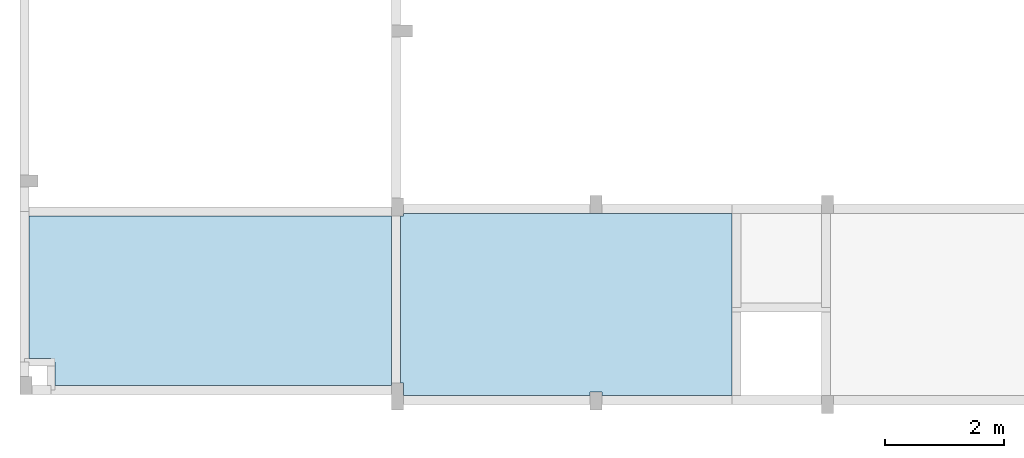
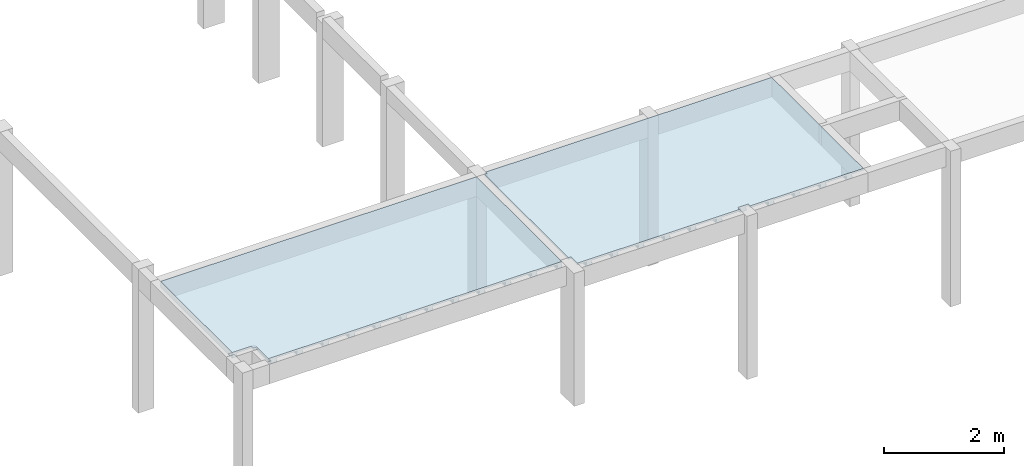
# One storey, part 4 of 11: 2 slabs.
"""IFC4 building model written with IfcOpenShell, lengths in centimetres."""

from ifc_helpers import new_model, si_unit, derived_unit, frame, origin_with_axes, place, context, project, spatial, polyline, outline, extrude, faceted_brep, material, element, save


model = new_model("IFC4")

# Units and contexts
model_context = context("Model", 3, precision=1e-05, world=origin_with_axes(), identifier="Body")
ifc_project = project(units=[si_unit("LENGTHUNIT", "METRE", prefix="CENTI"), si_unit("VOLUMEUNIT", "CUBIC_METRE"), si_unit("AREAUNIT", "SQUARE_METRE"), si_unit("POWERUNIT", "WATT"), si_unit("LUMINOUSFLUXUNIT", "LUMEN"), si_unit("ELECTRICCURRENTUNIT", "AMPERE"), si_unit("PRESSUREUNIT", "PASCAL", prefix="KILO"), si_unit("MASSUNIT", "GRAM", prefix="KILO"), si_unit("PLANEANGLEUNIT", "RADIAN"), derived_unit("VOLUMETRICFLOWRATEUNIT", [(si_unit("LENGTHUNIT", "METRE"), 3), (si_unit("TIMEUNIT", "SECOND"), -1)])], contexts=[model_context])

# Site, building, storey
site_placement = place(None, origin_with_axes())
site = spatial("IfcSite", under=ifc_project, at=site_placement)
building_placement = place(site_placement, frame((0.0, 0.0, -295.0)))
building = spatial("IfcBuilding", under=site, at=building_placement)
placement_1 = place(building_placement, origin_with_axes())
placement_2 = place(placement_1, frame((0.0, 0.0, 101.0), z_axis=(0.0, 0.0, 1.0), x_axis=(1.0, 0.0, 0.0)))
placement_3 = place(placement_2, frame((0.0, 0.0, 204.0), z_axis=(0.0, 0.0, 1.0), x_axis=(1.0, 0.0, 0.0)))
storey_placement = place(placement_3, frame((0.0, 0.0, 292.0), z_axis=(0.0, 0.0, 1.0), x_axis=(1.0, 0.0, 0.0)))
storey = spatial("IfcBuildingStorey", under=building, at=storey_placement, Name="PAVTO 01", CompositionType="ELEMENT", Elevation=302.0)

# Slabs
ifc_material = material(Name="Concreto")
slab_1_placement = place(storey_placement, frame((870.315, -6990.274996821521, 0.0), z_axis=(0.0, 0.0, 1.0), x_axis=(1.0, 0.0, 0.0)))
element("IfcSlab", 1, at=slab_1_placement, inside=storey, material=ifc_material, Name="L113", PredefinedType="FLOOR", context=model_context, shape_type="SolidModel", body=[
    extrude(outline(polyline([(303.585, 141.924), (-303.585, 141.925), (-303.585, -96.425), (-266.864, -96.424), (-266.864, -102.924), (-260.364, -102.924), (-260.364, -141.924), (303.585, -141.925), (303.585, 141.924), (303.585, 141.924)])), frame((0.0, 0.0, -4.0), z_axis=(0.0, 0.0, 1.0), x_axis=(1.0, 0.0, 0.0)), (0.0, 0.0, 1.0), 4.0),
    faceted_brep([(-5.0, -141.92450317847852, -12.0), (-5.0, 141.92449682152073, -12.0), (5.0, 141.92449682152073, -12.0), (5.0, -141.92450317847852, -12.0), (5.0, -141.92450317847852, -4.0), (5.0, 141.92449682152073, -4.0), (-5.0, 141.92449682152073, -4.0), (-5.0, -141.92450317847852, -4.0)], [[[0, 1, 2, 3]], [[4, 5, 6, 7]], [[4, 3, 5]], [[3, 2, 5]], [[5, 2, 6]], [[2, 1, 6]], [[6, 1, 7]], [[1, 0, 7]], [[7, 0, 4]], [[0, 3, 4]]]),
    faceted_brep([(-6.5, -141.92450317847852, -12.0), (-6.5, 141.92449682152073, -12.0), (-5.0, 141.92449682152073, -12.0), (-5.0, -141.92450317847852, -12.0), (-5.0, -141.92450317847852, -9.0), (-5.0, 141.92449682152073, -9.0), (-6.5, 141.92449682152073, -9.0), (-6.5, -141.92450317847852, -9.0)], [[[0, 1, 2, 3]], [[4, 5, 6, 7]], [[4, 3, 5]], [[3, 2, 5]], [[5, 2, 6]], [[2, 1, 6]], [[6, 1, 7]], [[1, 0, 7]], [[7, 0, 4]], [[0, 3, 4]]]),
    faceted_brep([(5.0, -141.92450317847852, -12.0), (5.0, 141.92449682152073, -12.0), (6.5, 141.92449682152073, -12.0), (6.5, -141.92450317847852, -12.0), (6.5, -141.92450317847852, -9.0), (6.5, 141.92449682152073, -9.0), (5.0, 141.92449682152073, -9.0), (5.0, -141.92450317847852, -9.0)], [[[0, 1, 2, 3]], [[4, 5, 6, 7]], [[4, 3, 5]], [[3, 2, 5]], [[5, 2, 6]], [[2, 1, 6]], [[6, 1, 7]], [[1, 0, 7]], [[7, 0, 4]], [[0, 3, 4]]]),
    faceted_brep([(-55.0, -141.92450317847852, -12.0), (-55.0, 141.92449682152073, -12.0), (-45.0, 141.92449682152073, -12.0), (-45.0, -141.92450317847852, -12.0), (-45.0, -141.92450317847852, -4.0), (-45.0, 141.92449682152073, -4.0), (-55.0, 141.92449682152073, -4.0), (-55.0, -141.92450317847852, -4.0)], [[[0, 1, 2, 3]], [[4, 5, 6, 7]], [[4, 3, 5]], [[3, 2, 5]], [[5, 2, 6]], [[2, 1, 6]], [[6, 1, 7]], [[1, 0, 7]], [[7, 0, 4]], [[0, 3, 4]]]),
    faceted_brep([(-56.5, -141.92450317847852, -12.0), (-56.5, 141.92449682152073, -12.0), (-55.0, 141.92449682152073, -12.0), (-55.0, -141.92450317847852, -12.0), (-55.0, -141.92450317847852, -9.0), (-55.0, 141.92449682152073, -9.0), (-56.5, 141.92449682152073, -9.0), (-56.5, -141.92450317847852, -9.0)], [[[0, 1, 2, 3]], [[4, 5, 6, 7]], [[4, 3, 5]], [[3, 2, 5]], [[5, 2, 6]], [[2, 1, 6]], [[6, 1, 7]], [[1, 0, 7]], [[7, 0, 4]], [[0, 3, 4]]]),
    faceted_brep([(-45.0, -141.92450317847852, -12.0), (-45.0, 141.92449682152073, -12.0), (-43.5, 141.92449682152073, -12.0), (-43.5, -141.92450317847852, -12.0), (-43.5, -141.92450317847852, -9.0), (-43.5, 141.92449682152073, -9.0), (-45.0, 141.92449682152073, -9.0), (-45.0, -141.92450317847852, -9.0)], [[[0, 1, 2, 3]], [[4, 5, 6, 7]], [[4, 3, 5]], [[3, 2, 5]], [[5, 2, 6]], [[2, 1, 6]], [[6, 1, 7]], [[1, 0, 7]], [[7, 0, 4]], [[0, 3, 4]]]),
    faceted_brep([(-105.0, -141.92450317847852, -12.0), (-105.0, 141.92449682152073, -12.0), (-95.0, 141.92449682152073, -12.0), (-95.0, -141.92450317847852, -12.0), (-95.0, -141.92450317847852, -4.0), (-95.0, 141.92449682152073, -4.0), (-105.0, 141.92449682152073, -4.0), (-105.0, -141.92450317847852, -4.0)], [[[0, 1, 2, 3]], [[4, 5, 6, 7]], [[4, 3, 5]], [[3, 2, 5]], [[5, 2, 6]], [[2, 1, 6]], [[6, 1, 7]], [[1, 0, 7]], [[7, 0, 4]], [[0, 3, 4]]]),
    faceted_brep([(-106.5, -141.92450317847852, -12.0), (-106.5, 141.92449682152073, -12.0), (-105.0, 141.92449682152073, -12.0), (-105.0, -141.92450317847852, -12.0), (-105.0, -141.92450317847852, -9.0), (-105.0, 141.92449682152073, -9.0), (-106.5, 141.92449682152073, -9.0), (-106.5, -141.92450317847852, -9.0)], [[[0, 1, 2, 3]], [[4, 5, 6, 7]], [[4, 3, 5]], [[3, 2, 5]], [[5, 2, 6]], [[2, 1, 6]], [[6, 1, 7]], [[1, 0, 7]], [[7, 0, 4]], [[0, 3, 4]]]),
    faceted_brep([(-95.0, -141.92450317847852, -12.0), (-95.0, 141.92449682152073, -12.0), (-93.5, 141.92449682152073, -12.0), (-93.5, -141.92450317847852, -12.0), (-93.5, -141.92450317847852, -9.0), (-93.5, 141.92449682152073, -9.0), (-95.0, 141.92449682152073, -9.0), (-95.0, -141.92450317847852, -9.0)], [[[0, 1, 2, 3]], [[4, 5, 6, 7]], [[4, 3, 5]], [[3, 2, 5]], [[5, 2, 6]], [[2, 1, 6]], [[6, 1, 7]], [[1, 0, 7]], [[7, 0, 4]], [[0, 3, 4]]]),
    faceted_brep([(-155.0, -141.92450317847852, -12.0), (-155.0, 141.92449682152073, -12.0), (-145.0, 141.92449682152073, -12.0), (-145.0, -141.92450317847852, -12.0), (-145.0, -141.92450317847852, -4.0), (-145.0, 141.92449682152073, -4.0), (-155.0, 141.92449682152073, -4.0), (-155.0, -141.92450317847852, -4.0)], [[[0, 1, 2, 3]], [[4, 5, 6, 7]], [[4, 3, 5]], [[3, 2, 5]], [[5, 2, 6]], [[2, 1, 6]], [[6, 1, 7]], [[1, 0, 7]], [[7, 0, 4]], [[0, 3, 4]]]),
    faceted_brep([(-156.5, -141.92450317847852, -12.0), (-156.5, 141.92449682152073, -12.0), (-155.0, 141.92449682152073, -12.0), (-155.0, -141.92450317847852, -12.0), (-155.0, -141.92450317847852, -9.0), (-155.0, 141.92449682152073, -9.0), (-156.5, 141.92449682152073, -9.0), (-156.5, -141.92450317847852, -9.0)], [[[0, 1, 2, 3]], [[4, 5, 6, 7]], [[4, 3, 5]], [[3, 2, 5]], [[5, 2, 6]], [[2, 1, 6]], [[6, 1, 7]], [[1, 0, 7]], [[7, 0, 4]], [[0, 3, 4]]]),
    faceted_brep([(-145.0, -141.92450317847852, -12.0), (-145.0, 141.92449682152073, -12.0), (-143.5, 141.92449682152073, -12.0), (-143.5, -141.92450317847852, -12.0), (-143.5, -141.92450317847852, -9.0), (-143.5, 141.92449682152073, -9.0), (-145.0, 141.92449682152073, -9.0), (-145.0, -141.92450317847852, -9.0)], [[[0, 1, 2, 3]], [[4, 5, 6, 7]], [[4, 3, 5]], [[3, 2, 5]], [[5, 2, 6]], [[2, 1, 6]], [[6, 1, 7]], [[1, 0, 7]], [[7, 0, 4]], [[0, 3, 4]]]),
    faceted_brep([(-205.0, -141.92450317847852, -12.0), (-205.0, 141.92449682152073, -12.0), (-195.0, 141.92449682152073, -12.0), (-195.0, -141.92450317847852, -12.0), (-195.0, -141.92450317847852, -4.0), (-195.0, 141.92449682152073, -4.0), (-205.0, 141.92449682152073, -4.0), (-205.0, -141.92450317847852, -4.0)], [[[0, 1, 2, 3]], [[4, 5, 6, 7]], [[4, 3, 5]], [[3, 2, 5]], [[5, 2, 6]], [[2, 1, 6]], [[6, 1, 7]], [[1, 0, 7]], [[7, 0, 4]], [[0, 3, 4]]]),
    faceted_brep([(-206.5, -141.92450317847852, -12.0), (-206.5, 141.92449682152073, -12.0), (-205.0, 141.92449682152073, -12.0), (-205.0, -141.92450317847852, -12.0), (-205.0, -141.92450317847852, -9.0), (-205.0, 141.92449682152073, -9.0), (-206.5, 141.92449682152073, -9.0), (-206.5, -141.92450317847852, -9.0)], [[[0, 1, 2, 3]], [[4, 5, 6, 7]], [[4, 3, 5]], [[3, 2, 5]], [[5, 2, 6]], [[2, 1, 6]], [[6, 1, 7]], [[1, 0, 7]], [[7, 0, 4]], [[0, 3, 4]]]),
    faceted_brep([(-195.0, -141.92450317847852, -12.0), (-195.0, 141.92449682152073, -12.0), (-193.5, 141.92449682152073, -12.0), (-193.5, -141.92450317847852, -12.0), (-193.5, -141.92450317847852, -9.0), (-193.5, 141.92449682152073, -9.0), (-195.0, 141.92449682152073, -9.0), (-195.0, -141.92450317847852, -9.0)], [[[0, 1, 2, 3]], [[4, 5, 6, 7]], [[4, 3, 5]], [[3, 2, 5]], [[5, 2, 6]], [[2, 1, 6]], [[6, 1, 7]], [[1, 0, 7]], [[7, 0, 4]], [[0, 3, 4]]]),
    faceted_brep([(-255.0, -141.92450317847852, -12.0), (-255.0, 141.92449682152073, -12.0), (-245.0, 141.92449682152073, -12.0), (-245.0, -141.92450317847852, -12.0), (-245.0, -141.92450317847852, -4.0), (-245.0, 141.92449682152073, -4.0), (-255.0, 141.92449682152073, -4.0), (-255.0, -141.92450317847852, -4.0)], [[[0, 1, 2, 3]], [[4, 5, 6, 7]], [[4, 3, 5]], [[3, 2, 5]], [[5, 2, 6]], [[2, 1, 6]], [[6, 1, 7]], [[1, 0, 7]], [[7, 0, 4]], [[0, 3, 4]]]),
    faceted_brep([(-256.5, -141.92450317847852, -12.0), (-256.5, 141.92449682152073, -12.0), (-255.0, 141.92449682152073, -12.0), (-255.0, -141.92450317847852, -12.0), (-255.0, -141.92450317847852, -9.0), (-255.0, 141.92449682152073, -9.0), (-256.5, 141.92449682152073, -9.0), (-256.5, -141.92450317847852, -9.0)], [[[0, 1, 2, 3]], [[4, 5, 6, 7]], [[4, 3, 5]], [[3, 2, 5]], [[5, 2, 6]], [[2, 1, 6]], [[6, 1, 7]], [[1, 0, 7]], [[7, 0, 4]], [[0, 3, 4]]]),
    faceted_brep([(-245.0, -141.92450317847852, -12.0), (-245.0, 141.92449682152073, -12.0), (-243.5, 141.92449682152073, -12.0), (-243.5, -141.92450317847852, -12.0), (-243.5, -141.92450317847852, -9.0), (-243.5, 141.92449682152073, -9.0), (-245.0, 141.92449682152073, -9.0), (-245.0, -141.92450317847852, -9.0)], [[[0, 1, 2, 3]], [[4, 5, 6, 7]], [[4, 3, 5]], [[3, 2, 5]], [[5, 2, 6]], [[2, 1, 6]], [[6, 1, 7]], [[1, 0, 7]], [[7, 0, 4]], [[0, 3, 4]]]),
    faceted_brep([(-303.585, -96.4249055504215, -12.0), (-303.585, 141.92449682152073, -12.0), (-295.0, 141.92449682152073, -12.0), (-295.0, -96.42450317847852, -12.0), (-295.0, -96.42450317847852, -4.0), (-295.0, 141.92449682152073, -4.0), (-303.585, 141.92449682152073, -4.0), (-303.585, -96.4249055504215, -4.0)], [[[0, 1, 2, 3]], [[4, 5, 6, 7]], [[4, 3, 5]], [[3, 2, 5]], [[5, 2, 6]], [[2, 1, 6]], [[6, 1, 7]], [[1, 0, 7]], [[7, 0, 4]], [[0, 3, 4]]]),
    faceted_brep([(-295.0, -96.42450317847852, -12.0), (-295.0, 141.92449682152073, -12.0), (-293.5, 141.92449682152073, -12.0), (-293.5, -96.42450317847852, -12.0), (-293.5, -96.42450317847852, -9.0), (-293.5, 141.92449682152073, -9.0), (-295.0, 141.92449682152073, -9.0), (-295.0, -96.42450317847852, -9.0)], [[[0, 1, 2, 3]], [[4, 5, 6, 7]], [[4, 3, 5]], [[3, 2, 5]], [[5, 2, 6]], [[2, 1, 6]], [[6, 1, 7]], [[1, 0, 7]], [[7, 0, 4]], [[0, 3, 4]]]),
    faceted_brep([(45.0, -141.92450317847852, -12.0), (45.0, 141.92449682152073, -12.0), (55.0, 141.92449682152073, -12.0), (55.0, -141.92450317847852, -12.0), (55.0, -141.92450317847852, -4.0), (55.0, 141.92449682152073, -4.0), (45.0, 141.92449682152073, -4.0), (45.0, -141.92450317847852, -4.0)], [[[0, 1, 2, 3]], [[4, 5, 6, 7]], [[4, 3, 5]], [[3, 2, 5]], [[5, 2, 6]], [[2, 1, 6]], [[6, 1, 7]], [[1, 0, 7]], [[7, 0, 4]], [[0, 3, 4]]]),
    faceted_brep([(43.5, -141.92450317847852, -12.0), (43.5, 141.92449682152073, -12.0), (45.0, 141.92449682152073, -12.0), (45.0, -141.92450317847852, -12.0), (45.0, -141.92450317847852, -9.0), (45.0, 141.92449682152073, -9.0), (43.5, 141.92449682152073, -9.0), (43.5, -141.92450317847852, -9.0)], [[[0, 1, 2, 3]], [[4, 5, 6, 7]], [[4, 3, 5]], [[3, 2, 5]], [[5, 2, 6]], [[2, 1, 6]], [[6, 1, 7]], [[1, 0, 7]], [[7, 0, 4]], [[0, 3, 4]]]),
    faceted_brep([(55.0, -141.92450317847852, -12.0), (55.0, 141.92449682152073, -12.0), (56.5, 141.92449682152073, -12.0), (56.5, -141.92450317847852, -12.0), (56.5, -141.92450317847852, -9.0), (56.5, 141.92449682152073, -9.0), (55.0, 141.92449682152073, -9.0), (55.0, -141.92450317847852, -9.0)], [[[0, 1, 2, 3]], [[4, 5, 6, 7]], [[4, 3, 5]], [[3, 2, 5]], [[5, 2, 6]], [[2, 1, 6]], [[6, 1, 7]], [[1, 0, 7]], [[7, 0, 4]], [[0, 3, 4]]]),
    faceted_brep([(95.0, -141.92450317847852, -12.0), (95.0, 141.92449682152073, -12.0), (105.0, 141.92449682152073, -12.0), (105.0, -141.92450317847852, -12.0), (105.0, -141.92450317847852, -4.0), (105.0, 141.92449682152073, -4.0), (95.0, 141.92449682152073, -4.0), (95.0, -141.92450317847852, -4.0)], [[[0, 1, 2, 3]], [[4, 5, 6, 7]], [[4, 3, 5]], [[3, 2, 5]], [[5, 2, 6]], [[2, 1, 6]], [[6, 1, 7]], [[1, 0, 7]], [[7, 0, 4]], [[0, 3, 4]]]),
    faceted_brep([(93.5, -141.92450317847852, -12.0), (93.5, 141.92449682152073, -12.0), (95.0, 141.92449682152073, -12.0), (95.0, -141.92450317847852, -12.0), (95.0, -141.92450317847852, -9.0), (95.0, 141.92449682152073, -9.0), (93.5, 141.92449682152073, -9.0), (93.5, -141.92450317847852, -9.0)], [[[0, 1, 2, 3]], [[4, 5, 6, 7]], [[4, 3, 5]], [[3, 2, 5]], [[5, 2, 6]], [[2, 1, 6]], [[6, 1, 7]], [[1, 0, 7]], [[7, 0, 4]], [[0, 3, 4]]]),
    faceted_brep([(105.0, -141.92450317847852, -12.0), (105.0, 141.92449682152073, -12.0), (106.5, 141.92449682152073, -12.0), (106.5, -141.92450317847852, -12.0), (106.5, -141.92450317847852, -9.0), (106.5, 141.92449682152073, -9.0), (105.0, 141.92449682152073, -9.0), (105.0, -141.92450317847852, -9.0)], [[[0, 1, 2, 3]], [[4, 5, 6, 7]], [[4, 3, 5]], [[3, 2, 5]], [[5, 2, 6]], [[2, 1, 6]], [[6, 1, 7]], [[1, 0, 7]], [[7, 0, 4]], [[0, 3, 4]]]),
    faceted_brep([(145.0, -141.92450317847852, -12.0), (145.0, 141.92449682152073, -12.0), (155.0, 141.92449682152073, -12.0), (155.0, -141.92450317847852, -12.0), (155.0, -141.92450317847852, -4.0), (155.0, 141.92449682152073, -4.0), (145.0, 141.92449682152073, -4.0), (145.0, -141.92450317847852, -4.0)], [[[0, 1, 2, 3]], [[4, 5, 6, 7]], [[4, 3, 5]], [[3, 2, 5]], [[5, 2, 6]], [[2, 1, 6]], [[6, 1, 7]], [[1, 0, 7]], [[7, 0, 4]], [[0, 3, 4]]]),
    faceted_brep([(143.5, -141.92450317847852, -12.0), (143.5, 141.92449682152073, -12.0), (145.0, 141.92449682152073, -12.0), (145.0, -141.92450317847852, -12.0), (145.0, -141.92450317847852, -9.0), (145.0, 141.92449682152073, -9.0), (143.5, 141.92449682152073, -9.0), (143.5, -141.92450317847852, -9.0)], [[[0, 1, 2, 3]], [[4, 5, 6, 7]], [[4, 3, 5]], [[3, 2, 5]], [[5, 2, 6]], [[2, 1, 6]], [[6, 1, 7]], [[1, 0, 7]], [[7, 0, 4]], [[0, 3, 4]]]),
    faceted_brep([(155.0, -141.92450317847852, -12.0), (155.0, 141.92449682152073, -12.0), (156.5, 141.92449682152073, -12.0), (156.5, -141.92450317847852, -12.0), (156.5, -141.92450317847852, -9.0), (156.5, 141.92449682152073, -9.0), (155.0, 141.92449682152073, -9.0), (155.0, -141.92450317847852, -9.0)], [[[0, 1, 2, 3]], [[4, 5, 6, 7]], [[4, 3, 5]], [[3, 2, 5]], [[5, 2, 6]], [[2, 1, 6]], [[6, 1, 7]], [[1, 0, 7]], [[7, 0, 4]], [[0, 3, 4]]]),
    faceted_brep([(195.0, -141.92450317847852, -12.0), (195.0, 141.92449682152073, -12.0), (205.0, 141.92449682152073, -12.0), (205.0, -141.92450317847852, -12.0), (205.0, -141.92450317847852, -4.0), (205.0, 141.92449682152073, -4.0), (195.0, 141.92449682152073, -4.0), (195.0, -141.92450317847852, -4.0)], [[[0, 1, 2, 3]], [[4, 5, 6, 7]], [[4, 3, 5]], [[3, 2, 5]], [[5, 2, 6]], [[2, 1, 6]], [[6, 1, 7]], [[1, 0, 7]], [[7, 0, 4]], [[0, 3, 4]]]),
    faceted_brep([(193.5, -141.92450317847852, -12.0), (193.5, 141.92449682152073, -12.0), (195.0, 141.92449682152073, -12.0), (195.0, -141.92450317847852, -12.0), (195.0, -141.92450317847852, -9.0), (195.0, 141.92449682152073, -9.0), (193.5, 141.92449682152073, -9.0), (193.5, -141.92450317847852, -9.0)], [[[0, 1, 2, 3]], [[4, 5, 6, 7]], [[4, 3, 5]], [[3, 2, 5]], [[5, 2, 6]], [[2, 1, 6]], [[6, 1, 7]], [[1, 0, 7]], [[7, 0, 4]], [[0, 3, 4]]]),
    faceted_brep([(205.0, -141.92450317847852, -12.0), (205.0, 141.92449682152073, -12.0), (206.5, 141.92449682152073, -12.0), (206.5, -141.92450317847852, -12.0), (206.5, -141.92450317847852, -9.0), (206.5, 141.92449682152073, -9.0), (205.0, 141.92449682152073, -9.0), (205.0, -141.92450317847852, -9.0)], [[[0, 1, 2, 3]], [[4, 5, 6, 7]], [[4, 3, 5]], [[3, 2, 5]], [[5, 2, 6]], [[2, 1, 6]], [[6, 1, 7]], [[1, 0, 7]], [[7, 0, 4]], [[0, 3, 4]]]),
    faceted_brep([(245.0, -141.92450317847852, -12.0), (245.0, 141.92449682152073, -12.0), (255.0, 141.92449682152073, -12.0), (255.0, -141.92450317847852, -12.0), (255.0, -141.92450317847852, -4.0), (255.0, 141.92449682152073, -4.0), (245.0, 141.92449682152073, -4.0), (245.0, -141.92450317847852, -4.0)], [[[0, 1, 2, 3]], [[4, 5, 6, 7]], [[4, 3, 5]], [[3, 2, 5]], [[5, 2, 6]], [[2, 1, 6]], [[6, 1, 7]], [[1, 0, 7]], [[7, 0, 4]], [[0, 3, 4]]]),
    faceted_brep([(243.5, -141.92450317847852, -12.0), (243.5, 141.92449682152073, -12.0), (245.0, 141.92449682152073, -12.0), (245.0, -141.92450317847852, -12.0), (245.0, -141.92450317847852, -9.0), (245.0, 141.92449682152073, -9.0), (243.5, 141.92449682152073, -9.0), (243.5, -141.92450317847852, -9.0)], [[[0, 1, 2, 3]], [[4, 5, 6, 7]], [[4, 3, 5]], [[3, 2, 5]], [[5, 2, 6]], [[2, 1, 6]], [[6, 1, 7]], [[1, 0, 7]], [[7, 0, 4]], [[0, 3, 4]]]),
    faceted_brep([(255.0, -141.92450317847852, -12.0), (255.0, 141.92449682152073, -12.0), (256.5, 141.92449682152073, -12.0), (256.5, -141.92450317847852, -12.0), (256.5, -141.92450317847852, -9.0), (256.5, 141.92449682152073, -9.0), (255.0, 141.92449682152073, -9.0), (255.0, -141.92450317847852, -9.0)], [[[0, 1, 2, 3]], [[4, 5, 6, 7]], [[4, 3, 5]], [[3, 2, 5]], [[5, 2, 6]], [[2, 1, 6]], [[6, 1, 7]], [[1, 0, 7]], [[7, 0, 4]], [[0, 3, 4]]]),
    faceted_brep([(295.0, -141.92450317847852, -12.0), (295.0, 141.92449682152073, -12.0), (303.585, 141.92449682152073, -12.0), (303.585, -141.92499682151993, -12.0), (303.585, -141.92499682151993, -4.0), (303.585, 141.92449682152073, -4.0), (295.0, 141.92449682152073, -4.0), (295.0, -141.92450317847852, -4.0)], [[[0, 1, 2, 3]], [[4, 5, 6, 7]], [[4, 3, 5]], [[3, 2, 5]], [[5, 2, 6]], [[2, 1, 6]], [[6, 1, 7]], [[1, 0, 7]], [[7, 0, 4]], [[0, 3, 4]]]),
    faceted_brep([(293.5, -141.92450317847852, -12.0), (293.5, 141.92449682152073, -12.0), (295.0, 141.92449682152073, -12.0), (295.0, -141.92450317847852, -12.0), (295.0, -141.92450317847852, -9.0), (295.0, 141.92449682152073, -9.0), (293.5, 141.92449682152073, -9.0), (293.5, -141.92450317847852, -9.0)], [[[0, 1, 2, 3]], [[4, 5, 6, 7]], [[4, 3, 5]], [[3, 2, 5]], [[5, 2, 6]], [[2, 1, 6]], [[6, 1, 7]], [[1, 0, 7]], [[7, 0, 4]], [[0, 3, 4]]]),
])
slab_2_placement = place(storey_placement, frame((1466.25, -6996.755, 0.0), z_axis=(0.0, 0.0, 1.0), x_axis=(1.0, 0.0, 0.0)))
element("IfcSlab", 2, at=slab_2_placement, inside=storey, material=ifc_material, Name="L114", PredefinedType="FLOOR", context=model_context, shape_type="SolidModel", body=[
    extrude(outline(polyline([(277.349, -152.555), (277.35, 152.554), (-272.35, 152.555), (-272.349, 148.404), (-277.349, 148.404), (-277.35, -131.174), (-272.349, -131.175), (-272.349, -152.554), (39.71, -152.554), (39.71, -146.175), (59.71, -146.175), (59.71, -152.555), (277.349, -152.555), (277.349, -152.555)])), frame((0.0, 0.0, -4.0), z_axis=(0.0, 0.0, 1.0), x_axis=(1.0, 0.0, 0.0)), (0.0, 0.0, 1.0), 4.0),
    faceted_brep([(-5.0, -152.554, -12.0), (-5.0, 152.5545, -12.0), (5.0, 152.5545, -12.0), (5.0, -152.554, -12.0), (5.0, -152.554, -4.0), (5.0, 152.5545, -4.0), (-5.0, 152.5545, -4.0), (-5.0, -152.554, -4.0)], [[[0, 1, 2, 3]], [[4, 5, 6, 7]], [[4, 3, 5]], [[3, 2, 5]], [[5, 2, 6]], [[2, 1, 6]], [[6, 1, 7]], [[1, 0, 7]], [[7, 0, 4]], [[0, 3, 4]]]),
    faceted_brep([(-6.5, -152.554, -12.0), (-6.5, 152.5545, -12.0), (-5.0, 152.5545, -12.0), (-5.0, -152.554, -12.0), (-5.0, -152.554, -9.0), (-5.0, 152.5545, -9.0), (-6.5, 152.5545, -9.0), (-6.5, -152.554, -9.0)], [[[0, 1, 2, 3]], [[4, 5, 6, 7]], [[4, 3, 5]], [[3, 2, 5]], [[5, 2, 6]], [[2, 1, 6]], [[6, 1, 7]], [[1, 0, 7]], [[7, 0, 4]], [[0, 3, 4]]]),
    faceted_brep([(5.0, -152.554, -12.0), (5.0, 152.5545, -12.0), (6.5, 152.5545, -12.0), (6.5, -152.554, -12.0), (6.5, -152.554, -9.0), (6.5, 152.5545, -9.0), (5.0, 152.5545, -9.0), (5.0, -152.554, -9.0)], [[[0, 1, 2, 3]], [[4, 5, 6, 7]], [[4, 3, 5]], [[3, 2, 5]], [[5, 2, 6]], [[2, 1, 6]], [[6, 1, 7]], [[1, 0, 7]], [[7, 0, 4]], [[0, 3, 4]]]),
    faceted_brep([(-55.0, -152.554, -12.0), (-55.0, 152.5545, -12.0), (-45.0, 152.5545, -12.0), (-45.0, -152.554, -12.0), (-45.0, -152.554, -4.0), (-45.0, 152.5545, -4.0), (-55.0, 152.5545, -4.0), (-55.0, -152.554, -4.0)], [[[0, 1, 2, 3]], [[4, 5, 6, 7]], [[4, 3, 5]], [[3, 2, 5]], [[5, 2, 6]], [[2, 1, 6]], [[6, 1, 7]], [[1, 0, 7]], [[7, 0, 4]], [[0, 3, 4]]]),
    faceted_brep([(-56.5, -152.554, -12.0), (-56.5, 152.5545, -12.0), (-55.0, 152.5545, -12.0), (-55.0, -152.554, -12.0), (-55.0, -152.554, -9.0), (-55.0, 152.5545, -9.0), (-56.5, 152.5545, -9.0), (-56.5, -152.554, -9.0)], [[[0, 1, 2, 3]], [[4, 5, 6, 7]], [[4, 3, 5]], [[3, 2, 5]], [[5, 2, 6]], [[2, 1, 6]], [[6, 1, 7]], [[1, 0, 7]], [[7, 0, 4]], [[0, 3, 4]]]),
    faceted_brep([(-45.0, -152.554, -12.0), (-45.0, 152.5545, -12.0), (-43.5, 152.5545, -12.0), (-43.5, -152.554, -12.0), (-43.5, -152.554, -9.0), (-43.5, 152.5545, -9.0), (-45.0, 152.5545, -9.0), (-45.0, -152.554, -9.0)], [[[0, 1, 2, 3]], [[4, 5, 6, 7]], [[4, 3, 5]], [[3, 2, 5]], [[5, 2, 6]], [[2, 1, 6]], [[6, 1, 7]], [[1, 0, 7]], [[7, 0, 4]], [[0, 3, 4]]]),
    faceted_brep([(-105.0, -152.554, -12.0), (-105.0, 152.5545, -12.0), (-95.0, 152.5545, -12.0), (-95.0, -152.554, -12.0), (-95.0, -152.554, -4.0), (-95.0, 152.5545, -4.0), (-105.0, 152.5545, -4.0), (-105.0, -152.554, -4.0)], [[[0, 1, 2, 3]], [[4, 5, 6, 7]], [[4, 3, 5]], [[3, 2, 5]], [[5, 2, 6]], [[2, 1, 6]], [[6, 1, 7]], [[1, 0, 7]], [[7, 0, 4]], [[0, 3, 4]]]),
    faceted_brep([(-106.5, -152.554, -12.0), (-106.5, 152.5545, -12.0), (-105.0, 152.5545, -12.0), (-105.0, -152.554, -12.0), (-105.0, -152.554, -9.0), (-105.0, 152.5545, -9.0), (-106.5, 152.5545, -9.0), (-106.5, -152.554, -9.0)], [[[0, 1, 2, 3]], [[4, 5, 6, 7]], [[4, 3, 5]], [[3, 2, 5]], [[5, 2, 6]], [[2, 1, 6]], [[6, 1, 7]], [[1, 0, 7]], [[7, 0, 4]], [[0, 3, 4]]]),
    faceted_brep([(-95.0, -152.554, -12.0), (-95.0, 152.5545, -12.0), (-93.5, 152.5545, -12.0), (-93.5, -152.554, -12.0), (-93.5, -152.554, -9.0), (-93.5, 152.5545, -9.0), (-95.0, 152.5545, -9.0), (-95.0, -152.554, -9.0)], [[[0, 1, 2, 3]], [[4, 5, 6, 7]], [[4, 3, 5]], [[3, 2, 5]], [[5, 2, 6]], [[2, 1, 6]], [[6, 1, 7]], [[1, 0, 7]], [[7, 0, 4]], [[0, 3, 4]]]),
    faceted_brep([(-155.0, -152.554, -12.0), (-155.0, 152.5545, -12.0), (-145.0, 152.5545, -12.0), (-145.0, -152.554, -12.0), (-145.0, -152.554, -4.0), (-145.0, 152.5545, -4.0), (-155.0, 152.5545, -4.0), (-155.0, -152.554, -4.0)], [[[0, 1, 2, 3]], [[4, 5, 6, 7]], [[4, 3, 5]], [[3, 2, 5]], [[5, 2, 6]], [[2, 1, 6]], [[6, 1, 7]], [[1, 0, 7]], [[7, 0, 4]], [[0, 3, 4]]]),
    faceted_brep([(-156.5, -152.554, -12.0), (-156.5, 152.5545, -12.0), (-155.0, 152.5545, -12.0), (-155.0, -152.554, -12.0), (-155.0, -152.554, -9.0), (-155.0, 152.5545, -9.0), (-156.5, 152.5545, -9.0), (-156.5, -152.554, -9.0)], [[[0, 1, 2, 3]], [[4, 5, 6, 7]], [[4, 3, 5]], [[3, 2, 5]], [[5, 2, 6]], [[2, 1, 6]], [[6, 1, 7]], [[1, 0, 7]], [[7, 0, 4]], [[0, 3, 4]]]),
    faceted_brep([(-145.0, -152.554, -12.0), (-145.0, 152.5545, -12.0), (-143.5, 152.5545, -12.0), (-143.5, -152.554, -12.0), (-143.5, -152.554, -9.0), (-143.5, 152.5545, -9.0), (-145.0, 152.5545, -9.0), (-145.0, -152.554, -9.0)], [[[0, 1, 2, 3]], [[4, 5, 6, 7]], [[4, 3, 5]], [[3, 2, 5]], [[5, 2, 6]], [[2, 1, 6]], [[6, 1, 7]], [[1, 0, 7]], [[7, 0, 4]], [[0, 3, 4]]]),
    faceted_brep([(-205.0, -152.554, -12.0), (-205.0, 152.5545, -12.0), (-195.0, 152.5545, -12.0), (-195.0, -152.554, -12.0), (-195.0, -152.554, -4.0), (-195.0, 152.5545, -4.0), (-205.0, 152.5545, -4.0), (-205.0, -152.554, -4.0)], [[[0, 1, 2, 3]], [[4, 5, 6, 7]], [[4, 3, 5]], [[3, 2, 5]], [[5, 2, 6]], [[2, 1, 6]], [[6, 1, 7]], [[1, 0, 7]], [[7, 0, 4]], [[0, 3, 4]]]),
    faceted_brep([(-206.5, -152.554, -12.0), (-206.5, 152.5545, -12.0), (-205.0, 152.5545, -12.0), (-205.0, -152.554, -12.0), (-205.0, -152.554, -9.0), (-205.0, 152.5545, -9.0), (-206.5, 152.5545, -9.0), (-206.5, -152.554, -9.0)], [[[0, 1, 2, 3]], [[4, 5, 6, 7]], [[4, 3, 5]], [[3, 2, 5]], [[5, 2, 6]], [[2, 1, 6]], [[6, 1, 7]], [[1, 0, 7]], [[7, 0, 4]], [[0, 3, 4]]]),
    faceted_brep([(-195.0, -152.554, -12.0), (-195.0, 152.5545, -12.0), (-193.5, 152.5545, -12.0), (-193.5, -152.554, -12.0), (-193.5, -152.554, -9.0), (-193.5, 152.5545, -9.0), (-195.0, 152.5545, -9.0), (-195.0, -152.554, -9.0)], [[[0, 1, 2, 3]], [[4, 5, 6, 7]], [[4, 3, 5]], [[3, 2, 5]], [[5, 2, 6]], [[2, 1, 6]], [[6, 1, 7]], [[1, 0, 7]], [[7, 0, 4]], [[0, 3, 4]]]),
    faceted_brep([(-255.0, -152.554, -12.0), (-255.0, 152.5545, -12.0), (-245.0, 152.5545, -12.0), (-245.0, -152.554, -12.0), (-245.0, -152.554, -4.0), (-245.0, 152.5545, -4.0), (-255.0, 152.5545, -4.0), (-255.0, -152.554, -4.0)], [[[0, 1, 2, 3]], [[4, 5, 6, 7]], [[4, 3, 5]], [[3, 2, 5]], [[5, 2, 6]], [[2, 1, 6]], [[6, 1, 7]], [[1, 0, 7]], [[7, 0, 4]], [[0, 3, 4]]]),
    faceted_brep([(-256.5, -152.554, -12.0), (-256.5, 152.5545, -12.0), (-255.0, 152.5545, -12.0), (-255.0, -152.554, -12.0), (-255.0, -152.554, -9.0), (-255.0, 152.5545, -9.0), (-256.5, 152.5545, -9.0), (-256.5, -152.554, -9.0)], [[[0, 1, 2, 3]], [[4, 5, 6, 7]], [[4, 3, 5]], [[3, 2, 5]], [[5, 2, 6]], [[2, 1, 6]], [[6, 1, 7]], [[1, 0, 7]], [[7, 0, 4]], [[0, 3, 4]]]),
    faceted_brep([(-245.0, -152.554, -12.0), (-245.0, 152.5545, -12.0), (-243.5, 152.5545, -12.0), (-243.5, -152.554, -12.0), (-243.5, -152.554, -9.0), (-243.5, 152.5545, -9.0), (-245.0, 152.5545, -9.0), (-245.0, -152.554, -9.0)], [[[0, 1, 2, 3]], [[4, 5, 6, 7]], [[4, 3, 5]], [[3, 2, 5]], [[5, 2, 6]], [[2, 1, 6]], [[6, 1, 7]], [[1, 0, 7]], [[7, 0, 4]], [[0, 3, 4]]]),
    faceted_brep([(45.0, -146.175, -12.0), (45.0, 152.5545, -12.0), (55.0, 152.5545, -12.0), (55.0, -146.175, -12.0), (55.0, -146.175, -4.0), (55.0, 152.5545, -4.0), (45.0, 152.5545, -4.0), (45.0, -146.175, -4.0)], [[[0, 1, 2, 3]], [[4, 5, 6, 7]], [[4, 3, 5]], [[3, 2, 5]], [[5, 2, 6]], [[2, 1, 6]], [[6, 1, 7]], [[1, 0, 7]], [[7, 0, 4]], [[0, 3, 4]]]),
    faceted_brep([(43.5, -146.175, -12.0), (43.5, 152.5545, -12.0), (45.0, 152.5545, -12.0), (45.0, -146.175, -12.0), (45.0, -146.175, -9.0), (45.0, 152.5545, -9.0), (43.5, 152.5545, -9.0), (43.5, -146.175, -9.0)], [[[0, 1, 2, 3]], [[4, 5, 6, 7]], [[4, 3, 5]], [[3, 2, 5]], [[5, 2, 6]], [[2, 1, 6]], [[6, 1, 7]], [[1, 0, 7]], [[7, 0, 4]], [[0, 3, 4]]]),
    faceted_brep([(55.0, -146.175, -12.0), (55.0, 152.5545, -12.0), (56.5, 152.5545, -12.0), (56.5, -146.175, -12.0), (56.5, -146.175, -9.0), (56.5, 152.5545, -9.0), (55.0, 152.5545, -9.0), (55.0, -146.175, -9.0)], [[[0, 1, 2, 3]], [[4, 5, 6, 7]], [[4, 3, 5]], [[3, 2, 5]], [[5, 2, 6]], [[2, 1, 6]], [[6, 1, 7]], [[1, 0, 7]], [[7, 0, 4]], [[0, 3, 4]]]),
    faceted_brep([(95.0, -152.555, -12.0), (95.0, 152.5545, -12.0), (105.0, 152.5545, -12.0), (105.0, -152.555, -12.0), (105.0, -152.555, -4.0), (105.0, 152.5545, -4.0), (95.0, 152.5545, -4.0), (95.0, -152.555, -4.0)], [[[0, 1, 2, 3]], [[4, 5, 6, 7]], [[4, 3, 5]], [[3, 2, 5]], [[5, 2, 6]], [[2, 1, 6]], [[6, 1, 7]], [[1, 0, 7]], [[7, 0, 4]], [[0, 3, 4]]]),
    faceted_brep([(93.5, -152.555, -12.0), (93.5, 152.5545, -12.0), (95.0, 152.5545, -12.0), (95.0, -152.555, -12.0), (95.0, -152.555, -9.0), (95.0, 152.5545, -9.0), (93.5, 152.5545, -9.0), (93.5, -152.555, -9.0)], [[[0, 1, 2, 3]], [[4, 5, 6, 7]], [[4, 3, 5]], [[3, 2, 5]], [[5, 2, 6]], [[2, 1, 6]], [[6, 1, 7]], [[1, 0, 7]], [[7, 0, 4]], [[0, 3, 4]]]),
    faceted_brep([(105.0, -152.555, -12.0), (105.0, 152.5545, -12.0), (106.5, 152.5545, -12.0), (106.5, -152.555, -12.0), (106.5, -152.555, -9.0), (106.5, 152.5545, -9.0), (105.0, 152.5545, -9.0), (105.0, -152.555, -9.0)], [[[0, 1, 2, 3]], [[4, 5, 6, 7]], [[4, 3, 5]], [[3, 2, 5]], [[5, 2, 6]], [[2, 1, 6]], [[6, 1, 7]], [[1, 0, 7]], [[7, 0, 4]], [[0, 3, 4]]]),
    faceted_brep([(145.0, -152.555, -12.0), (145.0, 152.5545, -12.0), (155.0, 152.5545, -12.0), (155.0, -152.555, -12.0), (155.0, -152.555, -4.0), (155.0, 152.5545, -4.0), (145.0, 152.5545, -4.0), (145.0, -152.555, -4.0)], [[[0, 1, 2, 3]], [[4, 5, 6, 7]], [[4, 3, 5]], [[3, 2, 5]], [[5, 2, 6]], [[2, 1, 6]], [[6, 1, 7]], [[1, 0, 7]], [[7, 0, 4]], [[0, 3, 4]]]),
    faceted_brep([(143.5, -152.555, -12.0), (143.5, 152.5545, -12.0), (145.0, 152.5545, -12.0), (145.0, -152.555, -12.0), (145.0, -152.555, -9.0), (145.0, 152.5545, -9.0), (143.5, 152.5545, -9.0), (143.5, -152.555, -9.0)], [[[0, 1, 2, 3]], [[4, 5, 6, 7]], [[4, 3, 5]], [[3, 2, 5]], [[5, 2, 6]], [[2, 1, 6]], [[6, 1, 7]], [[1, 0, 7]], [[7, 0, 4]], [[0, 3, 4]]]),
    faceted_brep([(155.0, -152.555, -12.0), (155.0, 152.5545, -12.0), (156.5, 152.5545, -12.0), (156.5, -152.555, -12.0), (156.5, -152.555, -9.0), (156.5, 152.5545, -9.0), (155.0, 152.5545, -9.0), (155.0, -152.555, -9.0)], [[[0, 1, 2, 3]], [[4, 5, 6, 7]], [[4, 3, 5]], [[3, 2, 5]], [[5, 2, 6]], [[2, 1, 6]], [[6, 1, 7]], [[1, 0, 7]], [[7, 0, 4]], [[0, 3, 4]]]),
    faceted_brep([(195.0, -152.555, -12.0), (195.0, 152.5545, -12.0), (205.0, 152.5545, -12.0), (205.0, -152.555, -12.0), (205.0, -152.555, -4.0), (205.0, 152.5545, -4.0), (195.0, 152.5545, -4.0), (195.0, -152.555, -4.0)], [[[0, 1, 2, 3]], [[4, 5, 6, 7]], [[4, 3, 5]], [[3, 2, 5]], [[5, 2, 6]], [[2, 1, 6]], [[6, 1, 7]], [[1, 0, 7]], [[7, 0, 4]], [[0, 3, 4]]]),
    faceted_brep([(193.5, -152.555, -12.0), (193.5, 152.5545, -12.0), (195.0, 152.5545, -12.0), (195.0, -152.555, -12.0), (195.0, -152.555, -9.0), (195.0, 152.5545, -9.0), (193.5, 152.5545, -9.0), (193.5, -152.555, -9.0)], [[[0, 1, 2, 3]], [[4, 5, 6, 7]], [[4, 3, 5]], [[3, 2, 5]], [[5, 2, 6]], [[2, 1, 6]], [[6, 1, 7]], [[1, 0, 7]], [[7, 0, 4]], [[0, 3, 4]]]),
    faceted_brep([(205.0, -152.555, -12.0), (205.0, 152.5545, -12.0), (206.5, 152.5545, -12.0), (206.5, -152.555, -12.0), (206.5, -152.555, -9.0), (206.5, 152.5545, -9.0), (205.0, 152.5545, -9.0), (205.0, -152.555, -9.0)], [[[0, 1, 2, 3]], [[4, 5, 6, 7]], [[4, 3, 5]], [[3, 2, 5]], [[5, 2, 6]], [[2, 1, 6]], [[6, 1, 7]], [[1, 0, 7]], [[7, 0, 4]], [[0, 3, 4]]]),
    faceted_brep([(245.0, -152.555, -12.0), (245.0, 152.5545, -12.0), (255.0, 152.5545, -12.0), (255.0, -152.555, -12.0), (255.0, -152.555, -4.0), (255.0, 152.5545, -4.0), (245.0, 152.5545, -4.0), (245.0, -152.555, -4.0)], [[[0, 1, 2, 3]], [[4, 5, 6, 7]], [[4, 3, 5]], [[3, 2, 5]], [[5, 2, 6]], [[2, 1, 6]], [[6, 1, 7]], [[1, 0, 7]], [[7, 0, 4]], [[0, 3, 4]]]),
    faceted_brep([(243.5, -152.555, -12.0), (243.5, 152.5545, -12.0), (245.0, 152.5545, -12.0), (245.0, -152.555, -12.0), (245.0, -152.555, -9.0), (245.0, 152.5545, -9.0), (243.5, 152.5545, -9.0), (243.5, -152.555, -9.0)], [[[0, 1, 2, 3]], [[4, 5, 6, 7]], [[4, 3, 5]], [[3, 2, 5]], [[5, 2, 6]], [[2, 1, 6]], [[6, 1, 7]], [[1, 0, 7]], [[7, 0, 4]], [[0, 3, 4]]]),
    faceted_brep([(255.0, -152.555, -12.0), (255.0, 152.5545, -12.0), (256.5, 152.5545, -12.0), (256.5, -152.555, -12.0), (256.5, -152.555, -9.0), (256.5, 152.5545, -9.0), (255.0, 152.5545, -9.0), (255.0, -152.555, -9.0)], [[[0, 1, 2, 3]], [[4, 5, 6, 7]], [[4, 3, 5]], [[3, 2, 5]], [[5, 2, 6]], [[2, 1, 6]], [[6, 1, 7]], [[1, 0, 7]], [[7, 0, 4]], [[0, 3, 4]]]),
])

save(model, "model.ifc")
